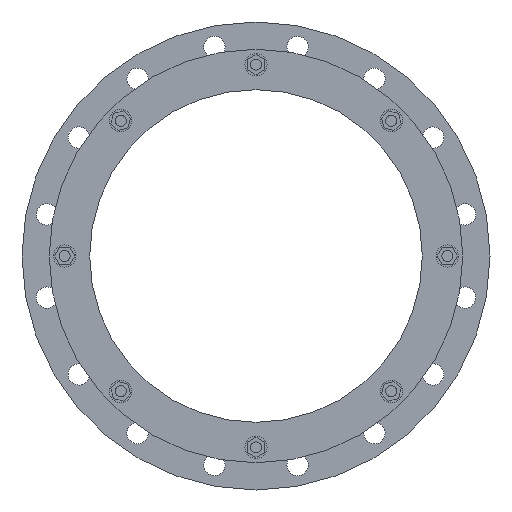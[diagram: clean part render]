
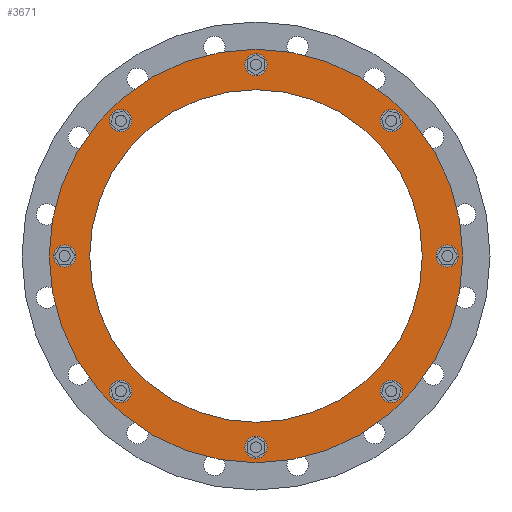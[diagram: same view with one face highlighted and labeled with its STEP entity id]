
A CAD part, front view. The second image highlights one B-rep face of the part: STEP entity #3671.
In plain terms, the highlighted planar face has unit normal (0, -1, 0).
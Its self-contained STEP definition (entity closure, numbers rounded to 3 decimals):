
#910=CARTESIAN_POINT('',(0.,-99.452,0.));
#911=DIRECTION('',(0.,-1.,0.));
#912=DIRECTION('',(1.,0.,0.));
#913=AXIS2_PLACEMENT_3D('',#910,#911,#912);
#915=CARTESIAN_POINT('',(0.,-99.452,0.));
#916=DIRECTION('',(0.,1.,0.));
#917=DIRECTION('',(1.,0.,0.));
#918=AXIS2_PLACEMENT_3D('',#915,#916,#917);
#920=CARTESIAN_POINT('',(206.5,-99.452,0.));
#921=DIRECTION('',(0.,-1.,0.));
#922=DIRECTION('',(0.,0.,-1.));
#923=AXIS2_PLACEMENT_3D('',#920,#921,#922);
#925=CARTESIAN_POINT('',(206.5,-99.452,0.));
#926=DIRECTION('',(0.,-1.,0.));
#927=DIRECTION('',(0.,0.,1.));
#928=AXIS2_PLACEMENT_3D('',#925,#926,#927);
#930=CARTESIAN_POINT('',(146.018,-99.452,146.018));
#931=DIRECTION('',(0.,-1.,0.));
#932=DIRECTION('',(0.707,0.,-0.707));
#933=AXIS2_PLACEMENT_3D('',#930,#931,#932);
#935=CARTESIAN_POINT('',(146.018,-99.452,146.018));
#936=DIRECTION('',(0.,-1.,0.));
#937=DIRECTION('',(-0.707,0.,0.707));
#938=AXIS2_PLACEMENT_3D('',#935,#936,#937);
#940=CARTESIAN_POINT('',(0.,-99.452,206.5));
#941=DIRECTION('',(0.,-1.,0.));
#942=DIRECTION('',(1.,0.,0.));
#943=AXIS2_PLACEMENT_3D('',#940,#941,#942);
#945=CARTESIAN_POINT('',(0.,-99.452,206.5));
#946=DIRECTION('',(0.,-1.,0.));
#947=DIRECTION('',(-1.,0.,0.));
#948=AXIS2_PLACEMENT_3D('',#945,#946,#947);
#950=CARTESIAN_POINT('',(-146.018,-99.452,146.018));
#951=DIRECTION('',(0.,-1.,0.));
#952=DIRECTION('',(0.707,0.,0.707));
#953=AXIS2_PLACEMENT_3D('',#950,#951,#952);
#955=CARTESIAN_POINT('',(-146.018,-99.452,146.018));
#956=DIRECTION('',(0.,-1.,0.));
#957=DIRECTION('',(-0.707,0.,-0.707));
#958=AXIS2_PLACEMENT_3D('',#955,#956,#957);
#960=CARTESIAN_POINT('',(-206.5,-99.452,0.));
#961=DIRECTION('',(0.,-1.,0.));
#962=DIRECTION('',(0.,0.,1.));
#963=AXIS2_PLACEMENT_3D('',#960,#961,#962);
#965=CARTESIAN_POINT('',(-206.5,-99.452,0.));
#966=DIRECTION('',(0.,-1.,0.));
#967=DIRECTION('',(0.,0.,-1.));
#968=AXIS2_PLACEMENT_3D('',#965,#966,#967);
#970=CARTESIAN_POINT('',(-146.018,-99.452,-146.018));
#971=DIRECTION('',(0.,-1.,0.));
#972=DIRECTION('',(-0.707,0.,0.707));
#973=AXIS2_PLACEMENT_3D('',#970,#971,#972);
#975=CARTESIAN_POINT('',(-146.018,-99.452,-146.018));
#976=DIRECTION('',(0.,-1.,0.));
#977=DIRECTION('',(0.707,0.,-0.707));
#978=AXIS2_PLACEMENT_3D('',#975,#976,#977);
#980=CARTESIAN_POINT('',(0.,-99.452,-206.5));
#981=DIRECTION('',(0.,-1.,0.));
#982=DIRECTION('',(-1.,0.,0.));
#983=AXIS2_PLACEMENT_3D('',#980,#981,#982);
#985=CARTESIAN_POINT('',(0.,-99.452,-206.5));
#986=DIRECTION('',(0.,-1.,0.));
#987=DIRECTION('',(1.,0.,0.));
#988=AXIS2_PLACEMENT_3D('',#985,#986,#987);
#990=CARTESIAN_POINT('',(146.018,-99.452,-146.018));
#991=DIRECTION('',(0.,-1.,0.));
#992=DIRECTION('',(-0.707,0.,-0.707));
#993=AXIS2_PLACEMENT_3D('',#990,#991,#992);
#995=CARTESIAN_POINT('',(146.018,-99.452,-146.018));
#996=DIRECTION('',(0.,-1.,0.));
#997=DIRECTION('',(0.707,0.,0.707));
#998=AXIS2_PLACEMENT_3D('',#995,#996,#997);
#1000=CARTESIAN_POINT('',(0.,-99.452,0.));
#1001=DIRECTION('',(0.,1.,0.));
#1002=DIRECTION('',(1.,0.,0.));
#1003=AXIS2_PLACEMENT_3D('',#1000,#1001,#1002);
#1013=CARTESIAN_POINT('',(0.,-99.452,0.));
#1014=DIRECTION('',(0.,-1.,0.));
#1015=DIRECTION('',(1.,0.,0.));
#1016=AXIS2_PLACEMENT_3D('',#1013,#1014,#1015);
#2384=CARTESIAN_POINT('',(223.1,-99.452,0.));
#2386=VERTEX_POINT('',#2384);
#2387=CARTESIAN_POINT('',(179.5,-99.452,0.));
#2389=VERTEX_POINT('',#2387);
#2396=CARTESIAN_POINT('',(-223.1,-99.452,0.));
#2398=VERTEX_POINT('',#2396);
#2399=CARTESIAN_POINT('',(-179.5,-99.452,0.));
#2401=VERTEX_POINT('',#2399);
#2438=CARTESIAN_POINT('',(206.5,-99.452,-12.));
#2439=CARTESIAN_POINT('',(206.5,-99.452,12.));
#2440=VERTEX_POINT('',#2438);
#2441=VERTEX_POINT('',#2439);
#2487=CARTESIAN_POINT('',(154.503,-99.452,137.532));
#2488=VERTEX_POINT('',#2487);
#2489=CARTESIAN_POINT('',(137.532,-99.452,154.503));
#2490=VERTEX_POINT('',#2489);
#2531=CARTESIAN_POINT('',(12.,-99.452,206.5));
#2532=VERTEX_POINT('',#2531);
#2533=CARTESIAN_POINT('',(-12.,-99.452,206.5));
#2534=VERTEX_POINT('',#2533);
#2575=CARTESIAN_POINT('',(-137.532,-99.452,154.503));
#2576=VERTEX_POINT('',#2575);
#2577=CARTESIAN_POINT('',(-154.503,-99.452,137.532));
#2578=VERTEX_POINT('',#2577);
#2619=CARTESIAN_POINT('',(-206.5,-99.452,12.));
#2620=VERTEX_POINT('',#2619);
#2621=CARTESIAN_POINT('',(-206.5,-99.452,-12.));
#2622=VERTEX_POINT('',#2621);
#2663=CARTESIAN_POINT('',(-154.503,-99.452,-137.532));
#2664=VERTEX_POINT('',#2663);
#2665=CARTESIAN_POINT('',(-137.532,-99.452,-154.503));
#2666=VERTEX_POINT('',#2665);
#2707=CARTESIAN_POINT('',(-12.,-99.452,-206.5));
#2708=VERTEX_POINT('',#2707);
#2709=CARTESIAN_POINT('',(12.,-99.452,-206.5));
#2710=VERTEX_POINT('',#2709);
#2751=CARTESIAN_POINT('',(137.532,-99.452,-154.503));
#2752=VERTEX_POINT('',#2751);
#2753=CARTESIAN_POINT('',(154.503,-99.452,-137.532));
#2754=VERTEX_POINT('',#2753);
#3608=CARTESIAN_POINT('',(0.,-99.452,0.));
#3609=DIRECTION('',(0.,1.,0.));
#3610=DIRECTION('',(-1.,0.,0.));
#3611=AXIS2_PLACEMENT_3D('',#3608,#3609,#3610);
#3612=PLANE('',#3611);
#3614=ORIENTED_EDGE('',*,*,#3613,.F.);
#3616=ORIENTED_EDGE('',*,*,#3615,.T.);
#3617=EDGE_LOOP('',(#3614,#3616));
#3618=FACE_OUTER_BOUND('',#3617,.F.);
#3620=ORIENTED_EDGE('',*,*,#3619,.F.);
#3622=ORIENTED_EDGE('',*,*,#3621,.T.);
#3623=EDGE_LOOP('',(#3620,#3622));
#3624=FACE_BOUND('',#3623,.F.);
#3626=ORIENTED_EDGE('',*,*,#3625,.T.);
#3628=ORIENTED_EDGE('',*,*,#3627,.T.);
#3629=EDGE_LOOP('',(#3626,#3628));
#3630=FACE_BOUND('',#3629,.F.);
#3632=ORIENTED_EDGE('',*,*,#3631,.T.);
#3634=ORIENTED_EDGE('',*,*,#3633,.T.);
#3635=EDGE_LOOP('',(#3632,#3634));
#3636=FACE_BOUND('',#3635,.F.);
#3638=ORIENTED_EDGE('',*,*,#3637,.T.);
#3640=ORIENTED_EDGE('',*,*,#3639,.T.);
#3641=EDGE_LOOP('',(#3638,#3640));
#3642=FACE_BOUND('',#3641,.F.);
#3644=ORIENTED_EDGE('',*,*,#3643,.T.);
#3646=ORIENTED_EDGE('',*,*,#3645,.T.);
#3647=EDGE_LOOP('',(#3644,#3646));
#3648=FACE_BOUND('',#3647,.F.);
#3650=ORIENTED_EDGE('',*,*,#3649,.T.);
#3652=ORIENTED_EDGE('',*,*,#3651,.T.);
#3653=EDGE_LOOP('',(#3650,#3652));
#3654=FACE_BOUND('',#3653,.F.);
#3656=ORIENTED_EDGE('',*,*,#3655,.T.);
#3658=ORIENTED_EDGE('',*,*,#3657,.T.);
#3659=EDGE_LOOP('',(#3656,#3658));
#3660=FACE_BOUND('',#3659,.F.);
#3661=ORIENTED_EDGE('',*,*,#3590,.T.);
#3662=ORIENTED_EDGE('',*,*,#3601,.T.);
#3663=EDGE_LOOP('',(#3661,#3662));
#3664=FACE_BOUND('',#3663,.F.);
#3666=ORIENTED_EDGE('',*,*,#3665,.T.);
#3668=ORIENTED_EDGE('',*,*,#3667,.T.);
#3669=EDGE_LOOP('',(#3666,#3668));
#3670=FACE_BOUND('',#3669,.F.);
#3671=ADVANCED_FACE('',(#3618,#3624,#3630,#3636,#3642,#3648,#3654,#3660,#3664,
#3670),#3612,.F.);
#914=CIRCLE('',#913,223.1);
#919=CIRCLE('',#918,223.1);
#924=CIRCLE('',#923,12.);
#929=CIRCLE('',#928,12.);
#934=CIRCLE('',#933,12.);
#939=CIRCLE('',#938,12.);
#944=CIRCLE('',#943,12.);
#949=CIRCLE('',#948,12.);
#954=CIRCLE('',#953,12.);
#959=CIRCLE('',#958,12.);
#964=CIRCLE('',#963,12.);
#969=CIRCLE('',#968,12.);
#974=CIRCLE('',#973,12.);
#979=CIRCLE('',#978,12.);
#984=CIRCLE('',#983,12.);
#989=CIRCLE('',#988,12.);
#994=CIRCLE('',#993,12.);
#999=CIRCLE('',#998,12.);
#1004=CIRCLE('',#1003,179.5);
#1017=CIRCLE('',#1016,179.5);
#3590=EDGE_CURVE('',#2708,#2710,#984,.T.);
#3601=EDGE_CURVE('',#2710,#2708,#989,.T.);
#3613=EDGE_CURVE('',#2386,#2398,#914,.T.);
#3615=EDGE_CURVE('',#2386,#2398,#919,.T.);
#3619=EDGE_CURVE('',#2389,#2401,#1004,.T.);
#3621=EDGE_CURVE('',#2389,#2401,#1017,.T.);
#3625=EDGE_CURVE('',#2440,#2441,#924,.T.);
#3627=EDGE_CURVE('',#2441,#2440,#929,.T.);
#3631=EDGE_CURVE('',#2488,#2490,#934,.T.);
#3633=EDGE_CURVE('',#2490,#2488,#939,.T.);
#3637=EDGE_CURVE('',#2532,#2534,#944,.T.);
#3639=EDGE_CURVE('',#2534,#2532,#949,.T.);
#3643=EDGE_CURVE('',#2576,#2578,#954,.T.);
#3645=EDGE_CURVE('',#2578,#2576,#959,.T.);
#3649=EDGE_CURVE('',#2620,#2622,#964,.T.);
#3651=EDGE_CURVE('',#2622,#2620,#969,.T.);
#3655=EDGE_CURVE('',#2664,#2666,#974,.T.);
#3657=EDGE_CURVE('',#2666,#2664,#979,.T.);
#3665=EDGE_CURVE('',#2752,#2754,#994,.T.);
#3667=EDGE_CURVE('',#2754,#2752,#999,.T.);
